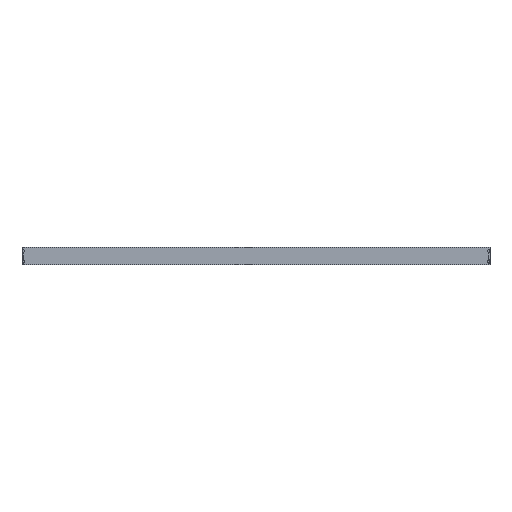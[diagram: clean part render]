
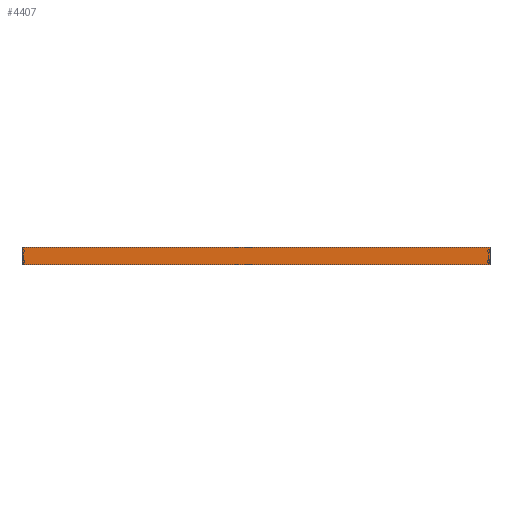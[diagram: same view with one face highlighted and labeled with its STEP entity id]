
A CAD part, front view. The second image highlights one B-rep face of the part: STEP entity #4407.
In plain terms, the highlighted planar face has unit normal (0, -1, 0) as drawn and (0, 0, 1) by its records, which use the part's own axes.
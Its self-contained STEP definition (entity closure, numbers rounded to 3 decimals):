
#476=PLANE('',#4817);
#612=LINE('',#6173,#1152);
#615=LINE('',#6179,#1155);
#616=LINE('',#6181,#1156);
#617=LINE('',#6183,#1157);
#1152=VECTOR('',#5289,1000.);
#1155=VECTOR('',#5294,1000.);
#1156=VECTOR('',#5295,1000.);
#1157=VECTOR('',#5296,1000.);
#1939=ORIENTED_EDGE('',*,*,#2957,.T.);
#1940=ORIENTED_EDGE('',*,*,#2958,.F.);
#1941=ORIENTED_EDGE('',*,*,#2959,.F.);
#1942=ORIENTED_EDGE('',*,*,#2954,.T.);
#2954=EDGE_CURVE('',#3495,#3494,#612,.T.);
#2957=EDGE_CURVE('',#3494,#3497,#615,.T.);
#2958=EDGE_CURVE('',#3498,#3497,#616,.T.);
#2959=EDGE_CURVE('',#3495,#3498,#617,.T.);
#3494=VERTEX_POINT('',#6172);
#3495=VERTEX_POINT('',#6174);
#3497=VERTEX_POINT('',#6180);
#3498=VERTEX_POINT('',#6182);
#3830=EDGE_LOOP('',(#1939,#1940,#1941,#1942));
#4104=FACE_BOUND('',#3830,.T.);
#4407=ADVANCED_FACE('',(#4104),#476,.F.);
#4817=AXIS2_PLACEMENT_3D('',#6178,#5292,#5293);
#5289=DIRECTION('',(-1.,0.,0.));
#5292=DIRECTION('',(0.,0.,-1.));
#5293=DIRECTION('',(-1.,0.,0.));
#5294=DIRECTION('',(0.,-1.,0.));
#5295=DIRECTION('',(-1.,0.,0.));
#5296=DIRECTION('',(0.,-1.,0.));
#6172=CARTESIAN_POINT('',(-400.,0.,500.));
#6173=CARTESIAN_POINT('',(400.,0.,500.));
#6174=CARTESIAN_POINT('',(400.,0.,500.));
#6178=CARTESIAN_POINT('',(400.,0.,500.));
#6179=CARTESIAN_POINT('',(-400.,0.,500.));
#6180=CARTESIAN_POINT('',(-400.,-30.,500.));
#6181=CARTESIAN_POINT('',(400.,-30.,500.));
#6182=CARTESIAN_POINT('',(400.,-30.,500.));
#6183=CARTESIAN_POINT('',(400.,0.,500.));
